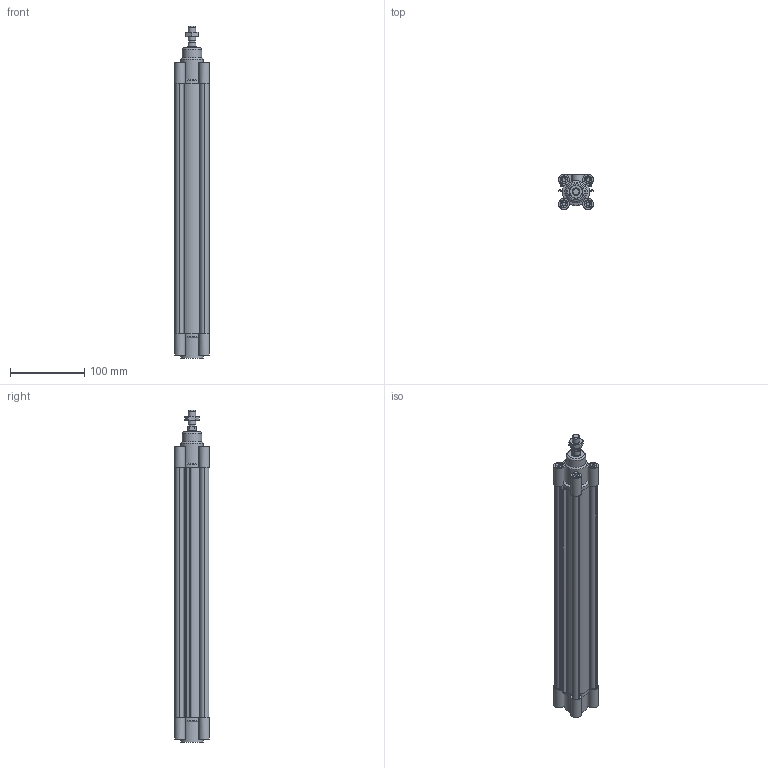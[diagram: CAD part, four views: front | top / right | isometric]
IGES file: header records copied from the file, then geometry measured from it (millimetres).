
Global section: file name: No Iges File Name specified; native system: Autodesk Inventor 2012; preprocessor: AutoDesk Inventor Iges Exporter R2012; author: pilonfr1; date: 20120128.095038; units: millimetre
Bounding box: 47 x 47 x 446.5 mm (x, y, z)
Volume: 353548.7 mm3; surface area: 208028.7 mm2
Topology: 5 solids, 5 shells, 316 faces, 788 edges, 522 vertices
Faces by surface type: plane 200, cylinder 54, revolution 39, cone 22, torus 1
Full cylindrical faces by diameter (mm): 8.8 x1, 10 x9, 11.5 x1, 12 x1, 26 x1, 30 x2, 32 x3
